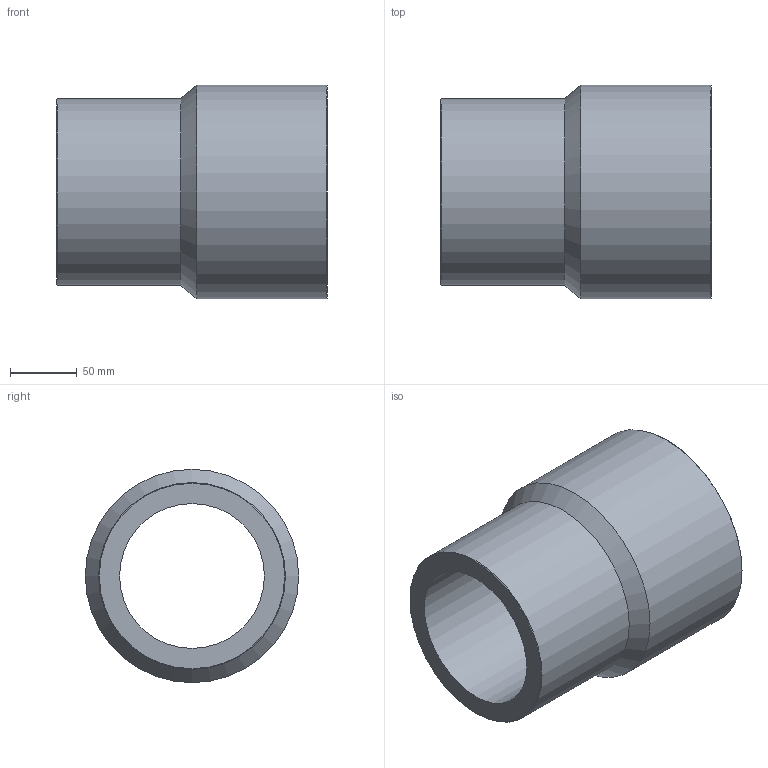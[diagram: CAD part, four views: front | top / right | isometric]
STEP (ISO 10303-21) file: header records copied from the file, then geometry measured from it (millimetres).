
FILE_DESCRIPTION(/* description */ ('Unknown'),/* implementation_level */ '2;1');
FILE_NAME(/* name */ 'RP160140G',/* time_stamp */ '2021-09-16T17:04:10+02:00',/* author */ ('Unknown'),/* organization */ ('Unknown'),/* preprocessor_version */ 'ST-DEVELOPER v16.7',/* originating_system */ 'Solid Edge',/* authorisation */ 'Unknown');
FILE_SCHEMA (('AUTOMOTIVE_DESIGN {1 0 10303 214 3 1 1}'));
Length unit declared in the file: millimetre
Products named in the file (1): RP160140G
Bounding box: 203 x 160 x 160 mm (x, y, z)
Volume: 1459070.8 mm3; surface area: 186148.1 mm2
Topology: 1 solids, 1 shells, 10 faces, 19 edges, 11 vertices
Faces by surface type: cylinder 4, cone 4, plane 2
Full cylindrical faces by diameter (mm): 108.6 x1, 124.2 x1, 140 x1, 160 x1
Entity records: 238 total; most frequent: DIRECTION 42, CARTESIAN_POINT 31, AXIS2_PLACEMENT_3D 21, ORIENTED_EDGE 20, EDGE_LOOP 20, FACE_BOUND 20, EDGE_CURVE 10, VERTEX_POINT 10
